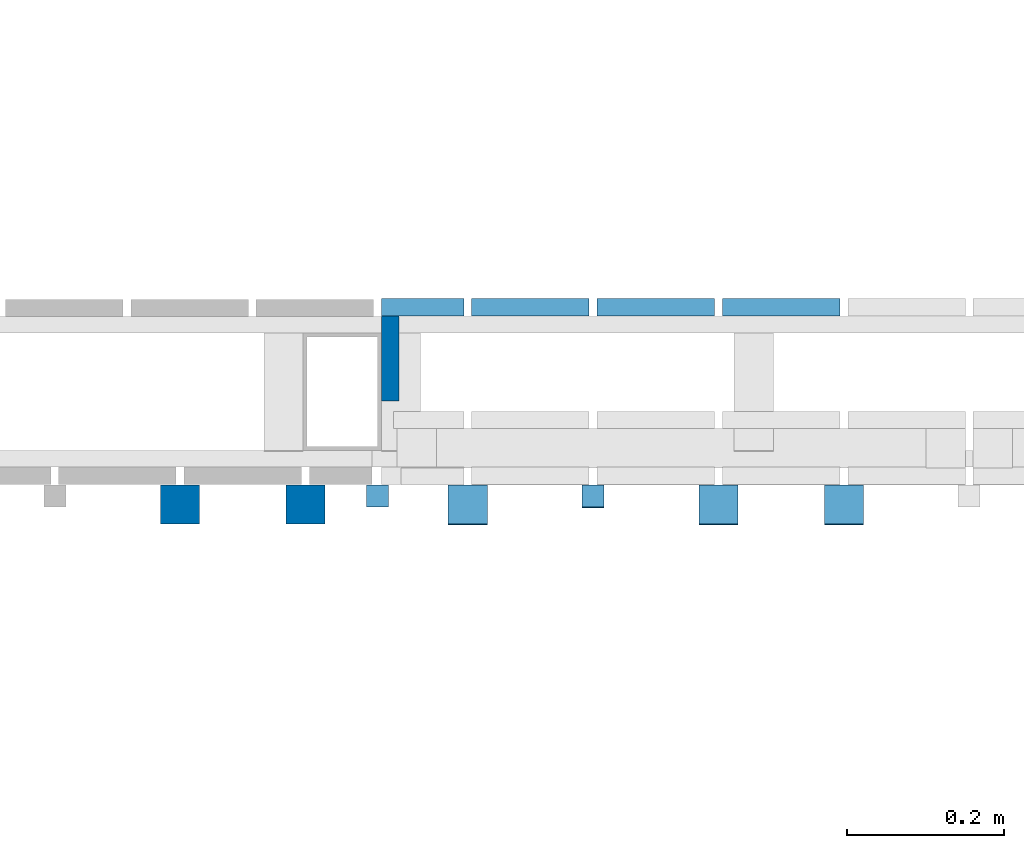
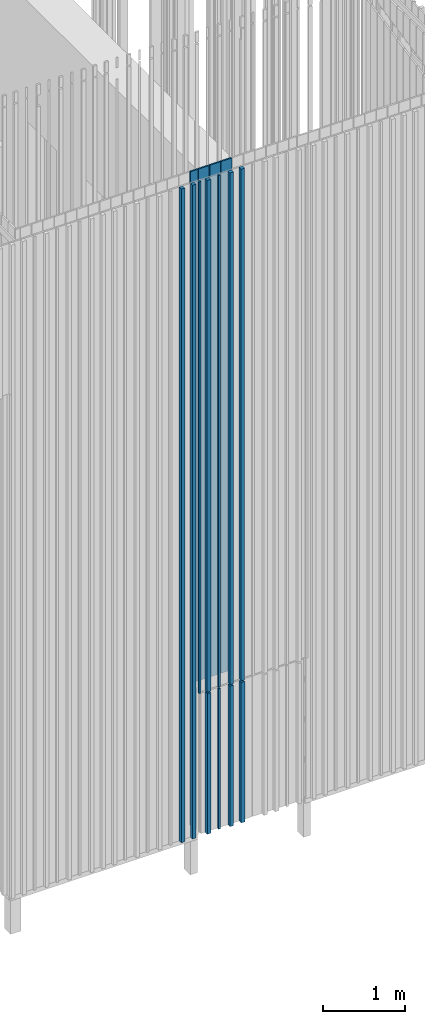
# One storey, part 14 of 390: 16 walls.
"""IFC2X3 building model written with IfcOpenShell, lengths in millimetres."""

from ifc_helpers import new_model, entity, si_unit, converted_unit, derived_unit, money_unit, direction, frame, origin_with_axes, origin_2d_with_axis, place, context, subcontext, project, spatial, rectangle, extrude, material, type_object, element, save


model = new_model("IFC2X3")

# Units and contexts
model_context = context("Model", 3, precision=1e-05, world=origin_with_axes(), true_north=direction((0.0, 1.0)))
body_context = subcontext(model_context, "Body", "Model", "MODEL_VIEW")
ifc_project = project(units=[si_unit("LENGTHUNIT", "METRE", prefix="MILLI"), si_unit("AREAUNIT", "SQUARE_METRE"), si_unit("VOLUMEUNIT", "CUBIC_METRE"), converted_unit("PLANEANGLEUNIT", "DEGREE", entity("IfcPlaneAngleMeasure", 0.0174532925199), si_unit("PLANEANGLEUNIT", "RADIAN"), dimensions=[0, 0, 0, 0, 0, 0, 0]), si_unit("SOLIDANGLEUNIT", "STERADIAN"), money_unit("EUR"), converted_unit("TIMEUNIT", "Year", entity("IfcTimeMeasure", 31556926.0), si_unit("TIMEUNIT", "SECOND"), dimensions=[0, 0, 1, 0, 0, 0, 0]), si_unit("MASSUNIT", "GRAM", prefix="KILO"), si_unit("THERMODYNAMICTEMPERATUREUNIT", "DEGREE_CELSIUS"), si_unit("LUMINOUSINTENSITYUNIT", "LUMEN"), si_unit("ENERGYUNIT", "JOULE", prefix="MEGA"), derived_unit("THERMALCONDUCTANCEUNIT", [(si_unit("POWERUNIT", "WATT"), 1), (si_unit("LENGTHUNIT", "METRE"), -1), (si_unit("THERMODYNAMICTEMPERATUREUNIT", "KELVIN"), -1)]), derived_unit("SPECIFICHEATCAPACITYUNIT", [(si_unit("ENERGYUNIT", "JOULE"), 1), (si_unit("MASSUNIT", "GRAM", prefix="KILO"), -1), (si_unit("THERMODYNAMICTEMPERATUREUNIT", "KELVIN"), -1)]), derived_unit("MASSDENSITYUNIT", [(si_unit("MASSUNIT", "GRAM", prefix="KILO"), 1), (si_unit("VOLUMEUNIT", "CUBIC_METRE"), -1)])], contexts=[model_context])

# Site, building, storey
site_placement = place(None, origin_with_axes())
site = spatial("IfcSite", under=ifc_project, at=site_placement, Name="Site", CompositionType="ELEMENT")
building_placement = place(site_placement, origin_with_axes())
building = spatial("IfcBuilding", under=site, at=building_placement, Name="Building", CompositionType="ELEMENT")
storey_placement = place(building_placement, origin_with_axes())
storey = spatial("IfcBuildingStorey", under=building, at=storey_placement, Name="1 korrus", CompositionType="ELEMENT", Elevation=0.0)

# Walls
ifc_material = material(Name="Site specified")
wall_type = type_object("IfcWallType", Name="Puitfassaadi ribistik", PredefinedType="NOTDEFINED")
for number, where, z_axis, x_axis, name in (
    (1, (135575.000037, 42465.9999724, 2220.00000001), (0.0, 0.0, 1.0), (-1.0, 0.0, 0.0), "Site specified"),
    (2, (135850.000037, 42465.9999649, 2220.00000001), (0.0, 0.0, 1.0), (-1.0, 0.0, 0.0), "Site specified"),
):
    element("IfcWall", number, at=place(storey_placement, frame(where, z_axis=z_axis, x_axis=x_axis)), inside=storey, type_object=wall_type, material=ifc_material, Name=name, context=body_context, shape_type="SweptSolid", body=[
        extrude(rectangle(XDim=28.0, YDim=28.0, at=origin_2d_with_axis()), origin_with_axes(), (0.0, 0.0, 1.0), 7644.99999999),
    ])
for number, where, z_axis, x_axis, name in (
    (3, (135690.000037, 42454.9999649, 2220.00000001), (0.0, 0.0, 1.0), (-1.0, 0.0, 0.0), "Site specified"),
    (4, (136010.000037, 42454.9999649, 2220.00000001), (0.0, 0.0, 1.0), (-1.0, 0.0, 0.0), "Site specified"),
    (5, (136170.000037, 42454.9999649, 2220.00000001), (0.0, 0.0, 1.0), (-1.0, 0.0, 0.0), "Site specified"),
):
    element("IfcWall", number, at=place(storey_placement, frame(where, z_axis=z_axis, x_axis=x_axis)), inside=storey, type_object=wall_type, material=ifc_material, Name=name, context=body_context, shape_type="SweptSolid", body=[
        extrude(rectangle(XDim=50.0, YDim=50.0, at=origin_2d_with_axis()), origin_with_axes(), (0.0, 0.0, 1.0), 7644.99999999),
    ])
for number, where, z_axis, x_axis, name in (
    (6, (136010.000037, 42453.9999649, 100.000000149), (0.0, 0.0, 1.0), (-1.0, 0.0, 0.0), "Site specified"),
    (7, (135690.000037, 42453.9999649, 100.000000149), (0.0, 0.0, 1.0), (-1.0, 0.0, 0.0), "Site specified"),
):
    element("IfcWall", number, at=place(storey_placement, frame(where, z_axis=z_axis, x_axis=x_axis)), inside=storey, type_object=wall_type, material=ifc_material, Name=name, context=body_context, shape_type="SweptSolid", body=[
        extrude(rectangle(XDim=50.0, YDim=50.0, at=origin_2d_with_axis()), origin_with_axes(), (0.0, 0.0, 1.0), 2100.0),
    ])
wall_1_placement = place(storey_placement, frame((135850.000037, 42464.9999649, 100.000000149), z_axis=(0.0, 0.0, 1.0), x_axis=(-1.0, 0.0, 0.0)))
element("IfcWall", 8, at=wall_1_placement, inside=storey, type_object=wall_type, material=ifc_material, Name="Site specified", context=body_context, shape_type="SweptSolid", body=[
    extrude(rectangle(XDim=28.0, YDim=28.0, at=origin_2d_with_axis()), origin_with_axes(), (0.0, 0.0, 1.0), 2100.0),
])
wall_2_placement = place(storey_placement, frame((136170.000037, 42453.9999649, 100.000000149), z_axis=(0.0, 0.0, 1.0), x_axis=(-1.0, 0.0, 0.0)))
element("IfcWall", 9, at=wall_2_placement, inside=storey, type_object=wall_type, material=ifc_material, Name="Site specified", context=body_context, shape_type="SweptSolid", body=[
    extrude(rectangle(XDim=50.0, YDim=50.0, at=origin_2d_with_axis()), origin_with_axes(), (0.0, 0.0, 1.0), 2100.0),
])
for number, where, z_axis, x_axis, name in (
    (10, (135323.000037, 42454.9999649, 100.000000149), (0.0, 0.0, 1.0), (-1.0, 0.0, 0.0), "Site specified"),
    (11, (135483.000037, 42454.9999649, 100.000000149), (0.0, 0.0, 1.0), (-1.0, 0.0, 0.0), "Site specified"),
):
    element("IfcWall", number, at=place(storey_placement, frame(where, z_axis=z_axis, x_axis=x_axis)), inside=storey, type_object=wall_type, material=ifc_material, Name=name, context=body_context, shape_type="SweptSolid", body=[
        extrude(rectangle(XDim=50.0, YDim=50.0, at=origin_2d_with_axis()), origin_with_axes(), (0.0, 0.0, 1.0), 9764.99999985),
    ])
wall_3_placement = place(storey_placement, frame((135770.000037, 42707.0092595, 2220.00000001), z_axis=(0.0, 0.0, 1.0), x_axis=(-1.0, 0.0, 0.0)))
element("IfcWall", 12, at=wall_3_placement, inside=storey, type_object=wall_type, material=ifc_material, Name="Site specified", context=body_context, shape_type="SweptSolid", body=[
    extrude(rectangle(XDim=150.0, YDim=22.0000000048, at=origin_2d_with_axis()), origin_with_axes(), (0.0, 0.0, 1.0), 7644.99999999),
])
wall_4_placement = place(storey_placement, frame((135632.500037, 42707.009267, 2220.00000001), z_axis=(0.0, 0.0, 1.0), x_axis=(-1.0, 0.0, 0.0)))
element("IfcWall", 13, at=wall_4_placement, inside=storey, type_object=wall_type, material=ifc_material, Name="Site specified", context=body_context, shape_type="SweptSolid", body=[
    extrude(rectangle(XDim=105.0, YDim=22.0000000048, at=origin_2d_with_axis()), origin_with_axes(), (0.0, 0.0, 1.0), 7644.99999999),
])
wall_5_placement = place(storey_placement, frame((135930.000037, 42707.0092595, 2220.00000001), z_axis=(0.0, 0.0, 1.0), x_axis=(-1.0, 0.0, 0.0)))
element("IfcWall", 14, at=wall_5_placement, inside=storey, type_object=wall_type, material=ifc_material, Name="Site specified", context=body_context, shape_type="SweptSolid", body=[
    extrude(rectangle(XDim=150.0, YDim=22.0000000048, at=origin_2d_with_axis()), origin_with_axes(), (0.0, 0.0, 1.0), 7644.99999999),
])
wall_6_placement = place(storey_placement, frame((135591.000037, 42652.0000102, 100.000000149), z_axis=(0.0, 0.0, 1.0), x_axis=(0.0, -1.0, 0.0)))
element("IfcWall", 15, at=wall_6_placement, inside=storey, type_object=wall_type, material=ifc_material, Name="Site specified", context=body_context, shape_type="SweptSolid", body=[
    extrude(rectangle(XDim=130.0, YDim=22.0000000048, at=origin_2d_with_axis()), origin_with_axes(), (0.0, 0.0, 1.0), 2119.99999987),
])
wall_7_placement = place(storey_placement, frame((136090.000037, 42707.0092595, 2220.00000001), z_axis=(0.0, 0.0, 1.0), x_axis=(-1.0, 0.0, 0.0)))
element("IfcWall", 16, at=wall_7_placement, inside=storey, type_object=wall_type, material=ifc_material, Name="Site specified", context=body_context, shape_type="SweptSolid", body=[
    extrude(rectangle(XDim=150.0, YDim=22.0000000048, at=origin_2d_with_axis()), origin_with_axes(), (0.0, 0.0, 1.0), 7644.99999999),
])

save(model, "model.ifc")
